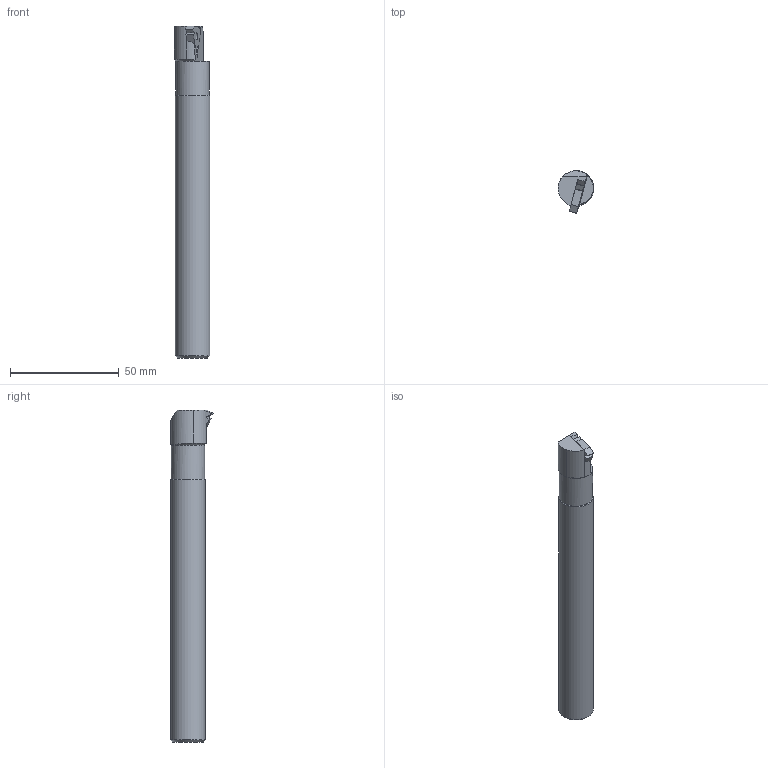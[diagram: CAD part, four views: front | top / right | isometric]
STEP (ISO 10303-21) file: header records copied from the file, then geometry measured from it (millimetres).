
FILE_DESCRIPTION (( 'STEP AP203' ), '1' );
FILE_NAME ('IRH0625DN-16.STEP', '2020-11-09T02:13:35', ( '' ), ( '' ), 'SwSTEP 2.0', 'SolidWorks 2015', '' );
FILE_SCHEMA (( 'CONFIG_CONTROL_DESIGN' ));
Length unit declared in the file: millimetre
Products named in the file (4): IR16_ル遽; IRH0625DN-16_ル遽; IRH0625DN-16
Assembly tree (3 placements, depth 3):
  IRH0625DN-16
    IRH0625DN-16
      IRH0625DN-16_ル遽
      IR16_ル遽
Bounding box: 16.46 x 19.62 x 152.5 mm (x, y, z)
Volume: 29205.7 mm3; surface area: 8295.1 mm2
Topology: 2 solids, 2 shells, 38 faces, 96 edges, 62 vertices
Faces by surface type: plane 25, cylinder 10, cone 3
Full cylindrical faces by diameter (mm): 3.5 x1, 15.38 x1, 15.875 x1
Entity records: 1558 total; most frequent: CARTESIAN_POINT 268, DIRECTION 187, ORIENTED_EDGE 178, EDGE_CURVE 89, AXIS2_PLACEMENT_3D 63, VECTOR 61, LINE 61, VERTEX_POINT 60
